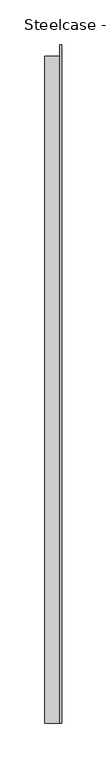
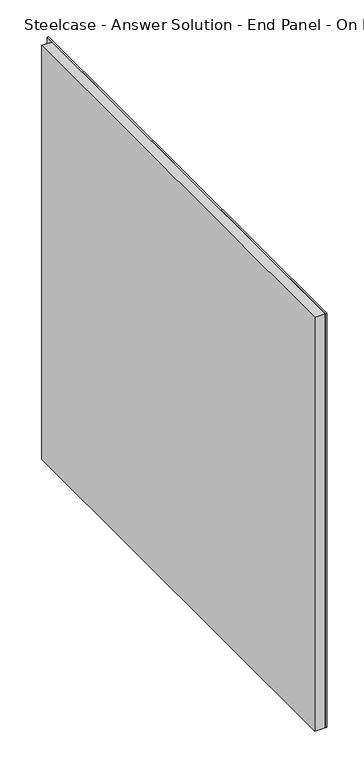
"""IFC4 building model written with IfcOpenShell, lengths in millimetres: furniture geometry, Steelcase - Answer Solution - End Panel - On Module : 30in - Right."""

from ifc_helpers import new_model, si_unit, origin, origin_with_axes, place, context, project, spatial, polyline, outline, extrude, source, transform, mapped, element, save


def steelcase_answer_solution_end_panel_on_module_30in_right_e7d03cb3(model_context):
    return source(origin(), model_context, "Body", "SweptSolid", [
        extrude(outline(polyline([(-6.9848062, 0.0), (-6.9848062, -755.65), (-9.5248062, -755.65), (-9.5248062, 0.0), (-6.9848062, 0.0)])), origin_with_axes(), (0.0, 0.0, 1.0), 685.9143099),
        extrude(outline(polyline([(-9.5248062, -12.7032217), (-9.5248062, -755.65), (-26.0348062, -755.65), (-26.0348062, -12.7032217), (-9.5248062, -12.7032217)])), origin_with_axes(), (0.0, 0.0, 1.0), 685.9143099),
    ])


if __name__ == "__main__":
    model = new_model("IFC4")
    model_context = context("Model", 3, world=origin())
    ifc_project = project(units=[si_unit("LENGTHUNIT", "METRE", prefix="MILLI")], contexts=[model_context])
    site = spatial("IfcSite", under=ifc_project)
    building = spatial("IfcBuilding", under=site)
    placement = place(None, origin())
    steelcase_answer_solution_end_panel_on_module_30in_right_shape = steelcase_answer_solution_end_panel_on_module_30in_right_e7d03cb3(model_context)
    element("IfcFurniture", 1, ObjectType="Steelcase - Answer Solution - End Panel - On Module : 30in - Right", at=placement, inside=building, context=model_context, shape_type="MappedRepresentation", body=[
        mapped(steelcase_answer_solution_end_panel_on_module_30in_right_shape, transform((0.0, 0.0, 0.0), x_axis=(1.0, 0.0, 0.0), y_axis=(0.0, 1.0, 0.0), z_axis=(0.0, 0.0, 1.0))),
    ])
    save(model, "model.ifc")
